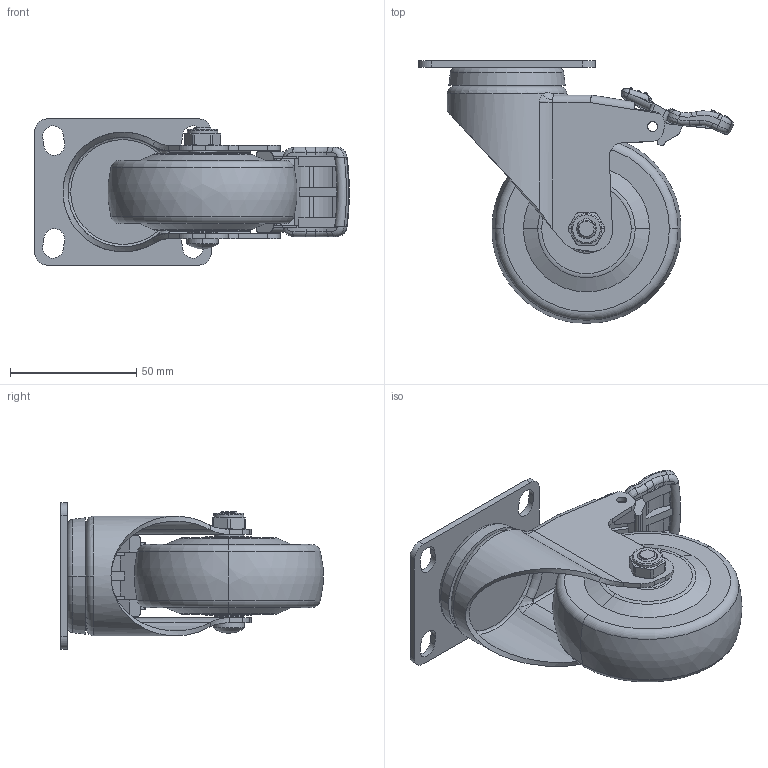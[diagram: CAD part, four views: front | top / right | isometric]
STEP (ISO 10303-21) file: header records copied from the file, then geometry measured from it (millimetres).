
FILE_DESCRIPTION((''),'2;1');
FILE_NAME('361125-3625-64_ASM','2020-01-03T',('L'),(''),'PRO/ENGINEER BY PARAMETRIC TECHNOLOGY CORPORATION, 2010280','PRO/ENGINEER BY PARAMETRIC TECHNOLOGY CORPORATION, 2010280','');
FILE_SCHEMA(('CONFIG_CONTROL_DESIGN'));
Length unit declared in the file: millimetre
Products named in the file (6): 36123H; 363-964; 350-33A; 300-34; 3601-64; 361125-3625-64_ASM
Assembly tree (5 placements, depth 2):
  361125-3625-64_ASM
    36123H
    363-964
    350-33A
    300-34
    3601-64
Bounding box: 124.69 x 103.91 x 58 mm (x, y, z)
Volume: 162154 mm3; surface area: 48560.7 mm2
Topology: 5 solids, 5 shells, 453 faces, 1152 edges, 720 vertices
Faces by surface type: cylinder 158, plane 153, bspline 64, torus 36, cone 28, sphere 14
Entity records: 20652 total; most frequent: CARTESIAN_POINT 10044, ORIENTED_EDGE 2300, DIRECTION 2035, EDGE_CURVE 1150, AXIS2_PLACEMENT_3D 765, VERTEX_POINT 720, VECTOR 505, LINE 505
